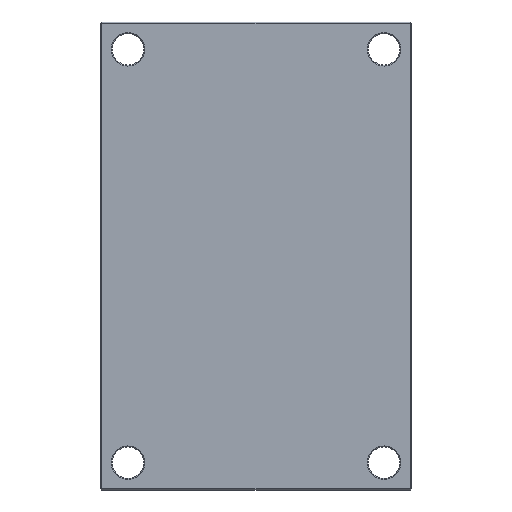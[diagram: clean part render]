
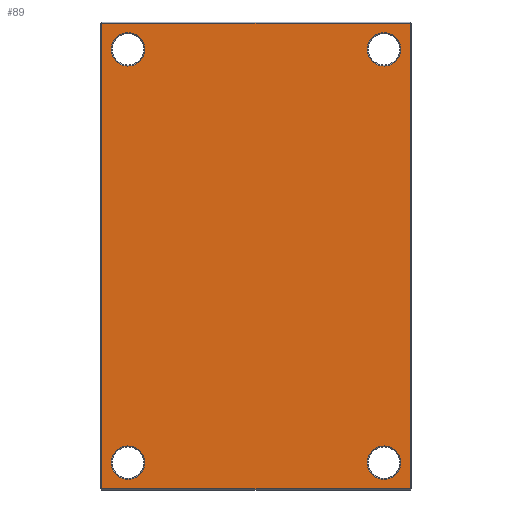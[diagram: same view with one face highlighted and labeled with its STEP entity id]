
A CAD part, front view. The second image highlights one B-rep face of the part: STEP entity #89.
In plain terms, the highlighted planar face has unit normal (0, -1, 0).
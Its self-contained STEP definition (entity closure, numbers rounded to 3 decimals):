
#21 = DIRECTION ( 'NONE',  ( 0., 0., 1. ) ) ;
#26 = DIRECTION ( 'NONE',  ( 0., 1., 0. ) ) ;
#27 = CARTESIAN_POINT ( 'NONE',  ( -122., 0., 197. ) ) ;
#47 = VERTEX_POINT ( 'NONE', #456 ) ;
#80 = CARTESIAN_POINT ( 'NONE',  ( -147., 0., -222. ) ) ;
#87 = CARTESIAN_POINT ( 'NONE',  ( 147., 0., 222. ) ) ;
#89 = ADVANCED_FACE ( 'NONE', ( #236, #1998, #682, #1491, #170 ), #2048, .F. ) ;
#115 = CARTESIAN_POINT ( 'NONE',  ( 122., 0., 213. ) ) ;
#123 = CARTESIAN_POINT ( 'NONE',  ( 122., 0., -181. ) ) ;
#157 = VECTOR ( 'NONE', #2023, 1000. ) ;
#159 = ORIENTED_EDGE ( 'NONE', *, *, #380, .T. ) ;
#162 = AXIS2_PLACEMENT_3D ( 'NONE', #745, #742, #725 ) ;
#170 = FACE_OUTER_BOUND ( 'NONE', #2099, .T. ) ;
#178 = AXIS2_PLACEMENT_3D ( 'NONE', #2037, #2084, #2025 ) ;
#212 = VERTEX_POINT ( 'NONE', #1716 ) ;
#236 = FACE_BOUND ( 'NONE', #1901, .T. ) ;
#254 = AXIS2_PLACEMENT_3D ( 'NONE', #488, #479, #468 ) ;
#303 = ORIENTED_EDGE ( 'NONE', *, *, #1957, .T. ) ;
#306 = EDGE_LOOP ( 'NONE', ( #1607, #936 ) ) ;
#352 = CIRCLE ( 'NONE', #1420, 16. ) ;
#359 = CIRCLE ( 'NONE', #254, 16. ) ;
#360 = ORIENTED_EDGE ( 'NONE', *, *, #1962, .T. ) ;
#367 = AXIS2_PLACEMENT_3D ( 'NONE', #27, #26, #21 ) ;
#380 = EDGE_CURVE ( 'NONE', #888, #1162, #1709, .T. ) ;
#384 = DIRECTION ( 'NONE',  ( 0., 1., 0. ) ) ;
#410 = EDGE_CURVE ( 'NONE', #1233, #1225, #359, .T. ) ;
#411 = CARTESIAN_POINT ( 'NONE',  ( 122., 0., 197. ) ) ;
#456 = CARTESIAN_POINT ( 'NONE',  ( -122., 0., -213. ) ) ;
#468 = DIRECTION ( 'NONE',  ( 0., 0., 1. ) ) ;
#471 = EDGE_CURVE ( 'NONE', #212, #1329, #680, .T. ) ;
#479 = DIRECTION ( 'NONE',  ( 0., 1., 0. ) ) ;
#488 = CARTESIAN_POINT ( 'NONE',  ( 122., 0., 197. ) ) ;
#499 = LINE ( 'NONE', #1310, #1290 ) ;
#540 = ORIENTED_EDGE ( 'NONE', *, *, #471, .T. ) ;
#594 = DIRECTION ( 'NONE',  ( 0., 0., 1. ) ) ;
#655 = CARTESIAN_POINT ( 'NONE',  ( 147., 0., -222. ) ) ;
#680 = CIRCLE ( 'NONE', #367, 16. ) ;
#682 = FACE_BOUND ( 'NONE', #306, .T. ) ;
#709 = CARTESIAN_POINT ( 'NONE',  ( -147., 0., 222. ) ) ;
#725 = DIRECTION ( 'NONE',  ( 0., 0., 1. ) ) ;
#742 = DIRECTION ( 'NONE',  ( 0., 1., 0. ) ) ;
#745 = CARTESIAN_POINT ( 'NONE',  ( 122., 0., -197. ) ) ;
#748 = DIRECTION ( 'NONE',  ( 0., 1., 0. ) ) ;
#771 = LINE ( 'NONE', #890, #1596 ) ;
#810 = CIRCLE ( 'NONE', #1402, 16. ) ;
#831 = CARTESIAN_POINT ( 'NONE',  ( 0., 0., 222. ) ) ;
#862 = CARTESIAN_POINT ( 'NONE',  ( -122., 0., 213. ) ) ;
#865 = CIRCLE ( 'NONE', #1216, 16. ) ;
#875 = VERTEX_POINT ( 'NONE', #80 ) ;
#888 = VERTEX_POINT ( 'NONE', #1504 ) ;
#890 = CARTESIAN_POINT ( 'NONE',  ( 147., 0., 0. ) ) ;
#936 = ORIENTED_EDGE ( 'NONE', *, *, #1953, .T. ) ;
#965 = CARTESIAN_POINT ( 'NONE',  ( -122., 0., 197. ) ) ;
#1034 = ORIENTED_EDGE ( 'NONE', *, *, #1941, .T. ) ;
#1036 = CARTESIAN_POINT ( 'NONE',  ( -122., 0., -181. ) ) ;
#1057 = DIRECTION ( 'NONE',  ( 0., 1., 0. ) ) ;
#1074 = LINE ( 'NONE', #1961, #157 ) ;
#1088 = DIRECTION ( 'NONE',  ( 0., 0., 1. ) ) ;
#1091 = EDGE_LOOP ( 'NONE', ( #540, #303 ) ) ;
#1124 = CIRCLE ( 'NONE', #1433, 16. ) ;
#1162 = VERTEX_POINT ( 'NONE', #123 ) ;
#1211 = EDGE_LOOP ( 'NONE', ( #159, #1034 ) ) ;
#1216 = AXIS2_PLACEMENT_3D ( 'NONE', #2181, #748, #594 ) ;
#1221 = CIRCLE ( 'NONE', #1446, 16. ) ;
#1225 = VERTEX_POINT ( 'NONE', #115 ) ;
#1233 = VERTEX_POINT ( 'NONE', #2063 ) ;
#1259 = VERTEX_POINT ( 'NONE', #87 ) ;
#1276 = DIRECTION ( 'NONE',  ( -1., 0., 0. ) ) ;
#1288 = DIRECTION ( 'NONE',  ( 0., 0., -1. ) ) ;
#1290 = VECTOR ( 'NONE', #1288, 1000. ) ;
#1310 = CARTESIAN_POINT ( 'NONE',  ( -147., 0., 0. ) ) ;
#1329 = VERTEX_POINT ( 'NONE', #862 ) ;
#1373 = VERTEX_POINT ( 'NONE', #1036 ) ;
#1402 = AXIS2_PLACEMENT_3D ( 'NONE', #2012, #2030, #2036 ) ;
#1420 = AXIS2_PLACEMENT_3D ( 'NONE', #2098, #2113, #2132 ) ;
#1422 = VERTEX_POINT ( 'NONE', #709 ) ;
#1433 = AXIS2_PLACEMENT_3D ( 'NONE', #411, #384, #2122 ) ;
#1446 = AXIS2_PLACEMENT_3D ( 'NONE', #965, #1057, #1088 ) ;
#1491 = FACE_BOUND ( 'NONE', #1091, .T. ) ;
#1504 = CARTESIAN_POINT ( 'NONE',  ( 122., 0., -213. ) ) ;
#1533 = LINE ( 'NONE', #831, #1945 ) ;
#1596 = VECTOR ( 'NONE', #2179, 1000. ) ;
#1606 = ORIENTED_EDGE ( 'NONE', *, *, #1966, .T. ) ;
#1607 = ORIENTED_EDGE ( 'NONE', *, *, #410, .T. ) ;
#1669 = EDGE_CURVE ( 'NONE', #47, #1373, #865, .T. ) ;
#1709 = CIRCLE ( 'NONE', #162, 16. ) ;
#1716 = CARTESIAN_POINT ( 'NONE',  ( -122., 0., 181. ) ) ;
#1851 = ORIENTED_EDGE ( 'NONE', *, *, #1669, .T. ) ;
#1901 = EDGE_LOOP ( 'NONE', ( #1851, #1929 ) ) ;
#1929 = ORIENTED_EDGE ( 'NONE', *, *, #1935, .T. ) ;
#1932 = ORIENTED_EDGE ( 'NONE', *, *, #2028, .T. ) ;
#1935 = EDGE_CURVE ( 'NONE', #1373, #47, #810, .T. ) ;
#1941 = EDGE_CURVE ( 'NONE', #1162, #888, #352, .T. ) ;
#1945 = VECTOR ( 'NONE', #1276, 1000. ) ;
#1953 = EDGE_CURVE ( 'NONE', #1225, #1233, #1124, .T. ) ;
#1957 = EDGE_CURVE ( 'NONE', #1329, #212, #1221, .T. ) ;
#1961 = CARTESIAN_POINT ( 'NONE',  ( 0., 0., -222. ) ) ;
#1962 = EDGE_CURVE ( 'NONE', #2152, #1259, #771, .T. ) ;
#1966 = EDGE_CURVE ( 'NONE', #1259, #1422, #1533, .T. ) ;
#1987 = EDGE_CURVE ( 'NONE', #875, #2152, #1074, .T. ) ;
#1998 = FACE_BOUND ( 'NONE', #1211, .T. ) ;
#2012 = CARTESIAN_POINT ( 'NONE',  ( -122., 0., -197. ) ) ;
#2022 = ORIENTED_EDGE ( 'NONE', *, *, #1987, .T. ) ;
#2023 = DIRECTION ( 'NONE',  ( 1., 0., 0. ) ) ;
#2025 = DIRECTION ( 'NONE',  ( 0., 0., 1. ) ) ;
#2028 = EDGE_CURVE ( 'NONE', #1422, #875, #499, .T. ) ;
#2030 = DIRECTION ( 'NONE',  ( 0., 1., 0. ) ) ;
#2036 = DIRECTION ( 'NONE',  ( 0., 0., 1. ) ) ;
#2037 = CARTESIAN_POINT ( 'NONE',  ( 0., 0., 0. ) ) ;
#2048 = PLANE ( 'NONE',  #178 ) ;
#2063 = CARTESIAN_POINT ( 'NONE',  ( 122., 0., 181. ) ) ;
#2084 = DIRECTION ( 'NONE',  ( 0., 1., 0. ) ) ;
#2098 = CARTESIAN_POINT ( 'NONE',  ( 122., 0., -197. ) ) ;
#2099 = EDGE_LOOP ( 'NONE', ( #360, #1606, #1932, #2022 ) ) ;
#2113 = DIRECTION ( 'NONE',  ( 0., 1., 0. ) ) ;
#2122 = DIRECTION ( 'NONE',  ( 0., 0., 1. ) ) ;
#2132 = DIRECTION ( 'NONE',  ( 0., 0., 1. ) ) ;
#2152 = VERTEX_POINT ( 'NONE', #655 ) ;
#2179 = DIRECTION ( 'NONE',  ( 0., 0., 1. ) ) ;
#2181 = CARTESIAN_POINT ( 'NONE',  ( -122., 0., -197. ) ) ;
